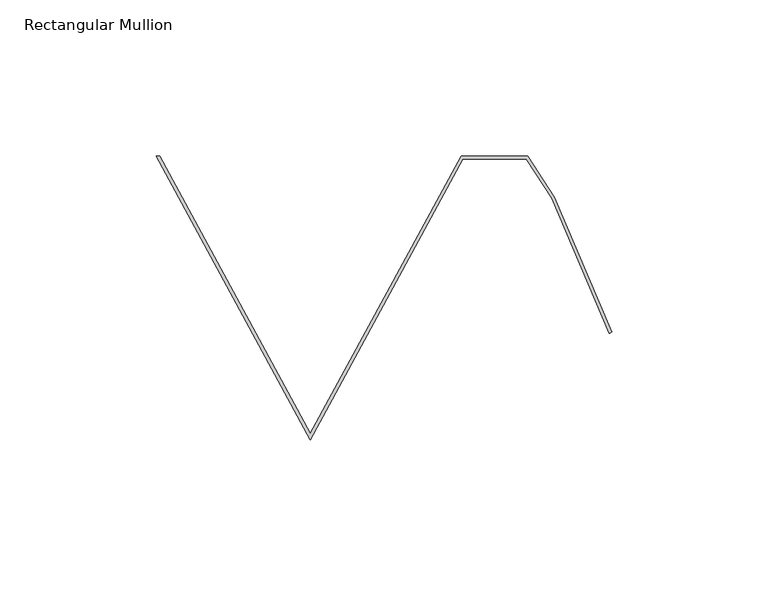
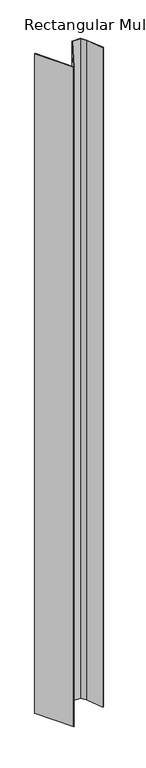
"""IFC4 building model written with IfcOpenShell, lengths in millimetres: member geometry, Rectangular Mullion : CD_NINELINE_Pleat Start."""

from ifc_helpers import new_model, si_unit, frame, origin, place, context, project, spatial, polyline, outline, extrude, source, transform, mapped, element, save


def rectangular_mullion_b818b3c7(model_context):
    return source(origin(), model_context, "Body", "SweptSolid", [
        extrude(outline(polyline([(-47.7222764, -1.0), (-96.5882894, -91.0), (-145.997258, 0.0), (-144.856794, 0.0), (-96.5882329, -88.9012056), (-48.3196718, 0.0), (-26.9107882, 0.0), (-18.3986164, -13.1078083), (0.0, -56.4531277), (-0.9204563, -56.8438302), (-19.2850663, -13.5795203), (-27.4543023, -1.0), (-47.7222764, -1.0)])), frame((0.0, 0.0, -1812.9375), z_axis=(0.0, 0.0, 1.0), x_axis=(1.0, 0.0, 0.0)), (0.0, 0.0, 1.0), 1812.9375),
    ])


if __name__ == "__main__":
    model = new_model("IFC4")
    model_context = context("Model", 3, world=origin())
    ifc_project = project(units=[si_unit("LENGTHUNIT", "METRE", prefix="MILLI")], contexts=[model_context])
    site = spatial("IfcSite", under=ifc_project)
    building = spatial("IfcBuilding", under=site)
    placement = place(None, origin())
    rectangular_mullion_shape = rectangular_mullion_b818b3c7(model_context)
    element("IfcMember", 1, ObjectType="Rectangular Mullion : CD_NINELINE_Pleat Start", at=placement, inside=building, context=model_context, shape_type="MappedRepresentation", body=[
        mapped(rectangular_mullion_shape, transform((0.0, 0.0, 0.0), x_axis=(1.0, 0.0, 0.0), y_axis=(0.0, 1.0, 0.0), z_axis=(0.0, 0.0, 1.0))),
    ])
    save(model, "model.ifc")
